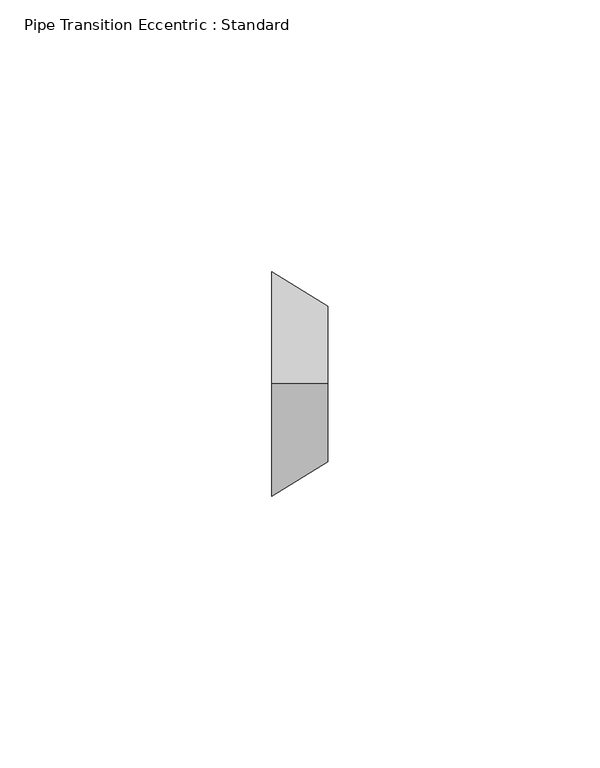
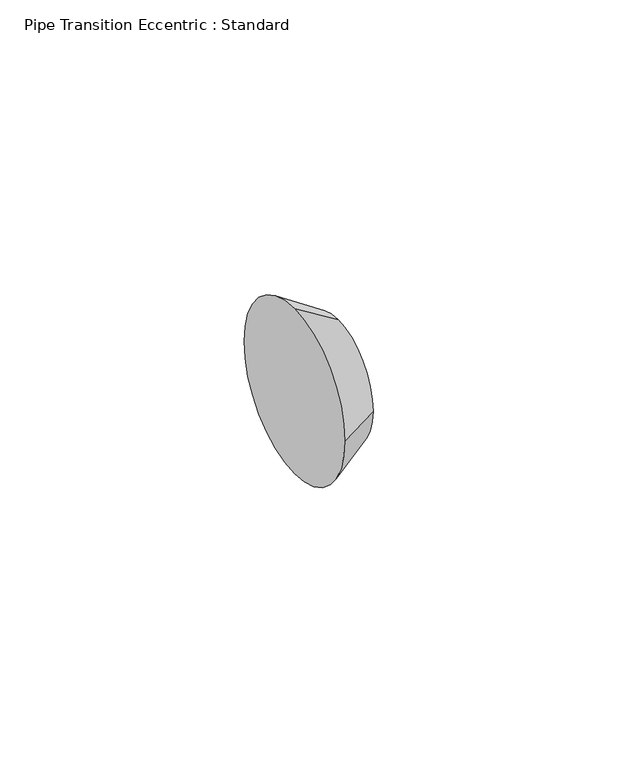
"""IFC4 building model written with IfcOpenShell, lengths in millimetres: pipe fitting geometry, Pipe Transition Eccentric : Standard."""

from ifc_helpers import new_model, si_unit, frame, origin, place, context, project, spatial, polyline, circle_curve, source, transform, mapped, element, save
from ifc_brep_helpers import plane_surface, revolved_surface, advanced_brep


def pipe_transition_eccentric_standard_5a72ba1c(model_context):
    return source(origin(), model_context, "Body", "AdvancedBrep", [
        advanced_brep(
        [(10.31875, 0.0, 14.2875), (10.31875, -14.2875, 0.0), (10.31875, 0.0, -14.2875), (10.31875, 14.2875, 0.0), (0.0, 0.0, 20.6375), (0.0, 20.6375, 0.0), (0.0, 0.0, -20.6375), (0.0, -20.6375, 0.0)],
        [
            (0, 1, circle_curve(frame((10.31875, 0.0, 0.0), z_axis=(1.0, 0.0, 0.0), x_axis=(0.0, 0.0, 1.0)), 14.2875)),
            (1, 2, circle_curve(frame((10.31875, 0.0, 0.0), z_axis=(1.0, 0.0, 0.0), x_axis=(0.0, -1.0, 0.0)), 14.2875)),
            (2, 3, circle_curve(frame((10.31875, 0.0, 0.0), z_axis=(1.0, 0.0, 0.0), x_axis=(0.0, 0.0, -1.0)), 14.2875)),
            (3, 0, circle_curve(frame((10.31875, 0.0, 0.0), z_axis=(1.0, 0.0, 0.0), x_axis=(0.0, 1.0, 0.0)), 14.2875)),
            (4, 5, circle_curve(frame((0.0, 0.0, 0.0), z_axis=(-1.0, 0.0, 0.0), x_axis=(0.0, 1.0, 0.0)), 20.6375)),
            (5, 6, circle_curve(frame((0.0, 0.0, 0.0), z_axis=(-1.0, 0.0, 0.0), x_axis=(0.0, 0.0, -1.0)), 20.6375)),
            (6, 7, circle_curve(frame((0.0, 0.0, 0.0), z_axis=(-1.0, 0.0, 0.0), x_axis=(0.0, -1.0, 0.0)), 20.6375)),
            (7, 4, circle_curve(frame((0.0, 0.0, 0.0), z_axis=(-1.0, 0.0, 0.0), x_axis=(0.0, 0.0, 1.0)), 20.6375)),
            (7, 1),
            (0, 4),
            (6, 2),
            (5, 3),
        ],
        [
            plane_surface(frame((10.31875, 0.0, 0.0), z_axis=(1.0, 0.0, 0.0), x_axis=(0.0, -1.0, 0.0))),
            plane_surface(frame((0.0, 0.0, 0.0), z_axis=(-1.0, 0.0, 0.0), x_axis=(0.0, -1.0, 0.0))),
            revolved_surface(polyline([(10.318750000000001, 0.0, 14.2875), (0.0, 0.0, 20.6375)]), (33.5359375, 0.0, 0.0), (-1.0, 0.0, 0.0)),
            revolved_surface(polyline([(10.318750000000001, -14.2875, 0.0), (0.0, -20.6375, 0.0)]), (33.5359375, 0.0, 0.0), (-1.0, 0.0, 0.0)),
            revolved_surface(polyline([(10.318750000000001, 0.0, -14.2875), (0.0, 0.0, -20.6375)]), (33.5359375, 0.0, 0.0), (-1.0, 0.0, 0.0)),
            revolved_surface(polyline([(10.318750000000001, 14.2875, 0.0), (0.0, 20.6375, 0.0)]), (33.5359375, 0.0, 0.0), (-1.0, 0.0, 0.0)),
        ],
        [
            (0, [[1, 2, 3, 4]]),
            (1, [[5, 6, 7, 8]]),
            (2, [[-8, 9, -1, 10]]),
            (3, [[-7, 11, -2, -9]]),
            (4, [[-6, 12, -3, -11]]),
            (5, [[-5, -10, -4, -12]]),
        ],
    ),
        advanced_brep(
        [(10.31875, 0.0, 14.2875), (10.31875, -14.2875, 0.0), (10.31875, 0.0, -14.2875), (10.31875, 14.2875, 0.0), (0.0, 0.0, 20.6375), (0.0, 20.6375, 0.0), (0.0, 0.0, -20.6375), (0.0, -20.6375, 0.0)],
        [
            (0, 1, circle_curve(frame((10.31875, 0.0, 0.0), z_axis=(1.0, 0.0, 0.0), x_axis=(0.0, 0.0, 1.0)), 14.2875)),
            (1, 2, circle_curve(frame((10.31875, 0.0, 0.0), z_axis=(1.0, 0.0, 0.0), x_axis=(0.0, -1.0, 0.0)), 14.2875)),
            (2, 3, circle_curve(frame((10.31875, 0.0, 0.0), z_axis=(1.0, 0.0, -1.2984464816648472e-12), x_axis=(-1.29855000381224e-12, 0.0, -1.0)), 14.2875)),
            (3, 0, circle_curve(frame((10.31875, 0.0, 0.0), z_axis=(1.0, 0.0, 0.0), x_axis=(0.0, 1.0, 0.0)), 14.2875)),
            (4, 5, circle_curve(frame((0.0, 0.0, 0.0), z_axis=(-1.0, 0.0, 0.0), x_axis=(0.0, 1.0, 0.0)), 20.6375)),
            (5, 6, circle_curve(frame((0.0, 0.0, 0.0), z_axis=(-1.0, 0.0, 1.2984464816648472e-12), x_axis=(-1.29855000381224e-12, 0.0, -1.0)), 20.6375)),
            (6, 7, circle_curve(frame((0.0, 0.0, 0.0), z_axis=(-1.0, 0.0, 0.0), x_axis=(0.0, -1.0, 0.0)), 20.6375)),
            (7, 4, circle_curve(frame((0.0, 0.0, 0.0), z_axis=(-1.0, 0.0, 0.0), x_axis=(0.0, 0.0, 1.0)), 20.6375)),
            (7, 1),
            (0, 4),
            (6, 2),
            (5, 3),
        ],
        [
            plane_surface(frame((10.31875, 0.0, 0.0), z_axis=(1.0, 0.0, 0.0), x_axis=(0.0, -1.0, 0.0))),
            plane_surface(frame((0.0, 0.0, 0.0), z_axis=(-1.0, 0.0, 0.0), x_axis=(0.0, -1.0, 0.0))),
            revolved_surface(polyline([(10.318750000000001, 0.0, 14.2875), (0.0, 0.0, 20.6375)]), (33.5359375, 0.0, 0.0), (-1.0, 0.0, 0.0)),
            revolved_surface(polyline([(10.318750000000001, -14.2875, 0.0), (0.0, -20.6375, 0.0)]), (33.5359375, 0.0, 0.0), (-1.0, 0.0, 0.0)),
            revolved_surface(polyline([(10.318750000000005, 0.0, -14.287499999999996), (-2.6794566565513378e-11, 0.0, -20.637500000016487)]), (33.5359375, 0.0, 0.0), (-1.0, 0.0, 1.2984464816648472e-12)),
            revolved_surface(polyline([(10.318750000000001, 14.2875, 0.0), (0.0, 20.6375, 0.0)]), (33.5359375, 0.0, 0.0), (-1.0, 0.0, 0.0)),
        ],
        [
            (0, [[1, 2, 3, 4]]),
            (1, [[5, 6, 7, 8]]),
            (2, [[-8, 9, -1, 10]]),
            (3, [[-7, 11, -2, -9]]),
            (4, [[-6, 12, -3, -11]]),
            (5, [[-5, -10, -4, -12]]),
        ],
    ),
    ])


if __name__ == "__main__":
    model = new_model("IFC4")
    model_context = context("Model", 3, world=origin())
    ifc_project = project(units=[si_unit("LENGTHUNIT", "METRE", prefix="MILLI")], contexts=[model_context])
    site = spatial("IfcSite", under=ifc_project)
    building = spatial("IfcBuilding", under=site)
    placement = place(None, origin())
    pipe_transition_eccentric_standard_shape = pipe_transition_eccentric_standard_5a72ba1c(model_context)
    element("IfcPipeFitting", 1, ObjectType="Pipe Transition Eccentric : Standard", at=placement, inside=building, context=model_context, shape_type="MappedRepresentation", body=[
        mapped(pipe_transition_eccentric_standard_shape, transform((0.0, 0.0, 0.0), x_axis=(1.0, 0.0, 0.0), y_axis=(0.0, 1.0, 0.0), z_axis=(0.0, 0.0, 1.0))),
    ])
    save(model, "model.ifc")
